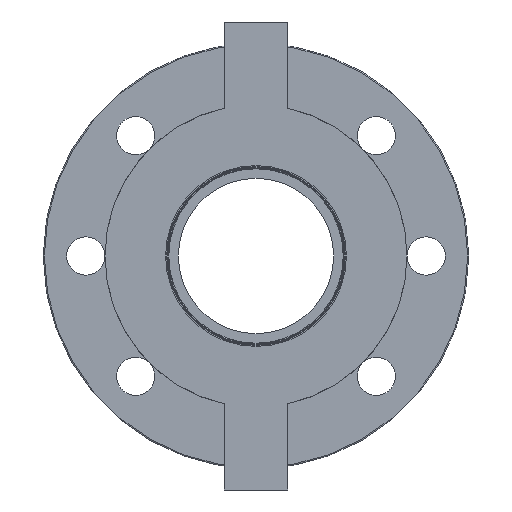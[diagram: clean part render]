
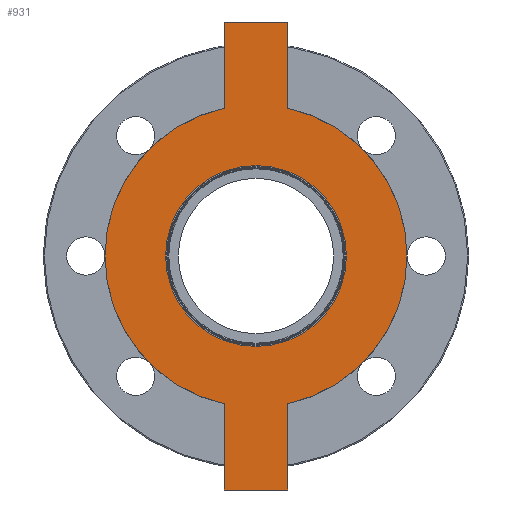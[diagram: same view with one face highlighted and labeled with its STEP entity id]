
A CAD part, front view. The second image highlights one B-rep face of the part: STEP entity #931.
In plain terms, the highlighted planar face has unit normal (0, -1, 0).
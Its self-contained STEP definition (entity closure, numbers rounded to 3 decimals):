
#762 = VERTEX_POINT ( 'NONE', #4461 ) ;
#875 = VERTEX_POINT ( 'NONE', #4579 ) ;
#888 = VERTEX_POINT ( 'NONE', #4592 ) ;
#892 = VERTEX_POINT ( 'NONE', #4596 ) ;
#893 = VERTEX_POINT ( 'NONE', #4597 ) ;
#895 = VERTEX_POINT ( 'NONE', #4599 ) ;
#931 = ADVANCED_FACE ( 'NONE', ( #4708, #4709 ), #4710, .F. ) ;
#998 = EDGE_CURVE ( 'NONE', #1052, #1133, #4975, .T. ) ;
#1003 = EDGE_CURVE ( 'NONE', #1050, #1051, #4980, .T. ) ;
#1050 = VERTEX_POINT ( 'NONE', #5381 ) ;
#1051 = VERTEX_POINT ( 'NONE', #5369 ) ;
#1052 = VERTEX_POINT ( 'NONE', #5382 ) ;
#1133 = VERTEX_POINT ( 'NONE', #5462 ) ;
#2681 = EDGE_CURVE ( 'NONE', #875, #893, #7690, .T. ) ;
#2684 = EDGE_CURVE ( 'NONE', #888, #1052, #7922, .T. ) ;
#2685 = EDGE_CURVE ( 'NONE', #895, #888, #7930, .T. ) ;
#2686 = EDGE_CURVE ( 'NONE', #893, #895, #7925, .T. ) ;
#2687 = EDGE_CURVE ( 'NONE', #892, #875, #7936, .T. ) ;
#2688 = EDGE_CURVE ( 'NONE', #762, #892, #7939, .T. ) ;
#2689 = EDGE_CURVE ( 'NONE', #1133, #762, #7924, .T. ) ;
#2690 = EDGE_CURVE ( 'NONE', #1051, #1050, #7700, .T. ) ;
#2822 = EDGE_LOOP ( 'NONE', ( #3234, #3235 ) ) ;
#2823 = EDGE_LOOP ( 'NONE', ( #3226, #3227, #3228, #3229, #3230, #3231, #3232, #3233 ) ) ;
#3226 = ORIENTED_EDGE ( 'NONE', *, *, #998, .F. ) ;
#3227 = ORIENTED_EDGE ( 'NONE', *, *, #2684, .F. ) ;
#3228 = ORIENTED_EDGE ( 'NONE', *, *, #2685, .F. ) ;
#3229 = ORIENTED_EDGE ( 'NONE', *, *, #2686, .F. ) ;
#3230 = ORIENTED_EDGE ( 'NONE', *, *, #2681, .F. ) ;
#3231 = ORIENTED_EDGE ( 'NONE', *, *, #2687, .F. ) ;
#3232 = ORIENTED_EDGE ( 'NONE', *, *, #2688, .F. ) ;
#3233 = ORIENTED_EDGE ( 'NONE', *, *, #2689, .F. ) ;
#3234 = ORIENTED_EDGE ( 'NONE', *, *, #1003, .T. ) ;
#3235 = ORIENTED_EDGE ( 'NONE', *, *, #2690, .T. ) ;
#4461 = CARTESIAN_POINT ( 'NONE',  ( 24.529, -28.872, -91.676 ) ) ;
#4579 = CARTESIAN_POINT ( 'NONE',  ( -5.471, -28.872, -51.074 ) ) ;
#4592 = CARTESIAN_POINT ( 'NONE',  ( 24.529, -28.872, 128.324 ) ) ;
#4596 = CARTESIAN_POINT ( 'NONE',  ( -5.471, -28.872, -91.676 ) ) ;
#4597 = CARTESIAN_POINT ( 'NONE',  ( -5.471, -28.872, 87.721 ) ) ;
#4599 = CARTESIAN_POINT ( 'NONE',  ( -5.471, -28.872, 128.324 ) ) ;
#4697 = CARTESIAN_POINT ( 'NONE',  ( 9.529, -28.872, 18.324 ) ) ;
#4708 = FACE_OUTER_BOUND ( 'NONE', #2823, .T. ) ;
#4709 = FACE_BOUND ( 'NONE', #2822, .T. ) ;
#4710 = PLANE ( 'NONE',  #4878 ) ;
#4712 = DIRECTION ( 'NONE',  ( 0., 1., 0. ) ) ;
#4713 = DIRECTION ( 'NONE',  ( 0., 0., 1. ) ) ;
#4878 = AXIS2_PLACEMENT_3D ( 'NONE', #4697, #4712, #4713 ) ;
#4975 = CIRCLE ( 'NONE', #4979, 71. ) ;
#4979 = AXIS2_PLACEMENT_3D ( 'NONE', #5267, #5268, #5269 ) ;
#4980 = CIRCLE ( 'NONE', #4987, 42.5 ) ;
#4987 = AXIS2_PLACEMENT_3D ( 'NONE', #5282, #5283, #5284 ) ;
#5267 = CARTESIAN_POINT ( 'NONE',  ( 9.529, -28.872, 18.324 ) ) ;
#5268 = DIRECTION ( 'NONE',  ( 0., 1., 0. ) ) ;
#5269 = DIRECTION ( 'NONE',  ( 0., 0., 1. ) ) ;
#5282 = CARTESIAN_POINT ( 'NONE',  ( 9.529, -28.872, 18.324 ) ) ;
#5283 = DIRECTION ( 'NONE',  ( 0., 1., 0. ) ) ;
#5284 = DIRECTION ( 'NONE',  ( 0., 0., 1. ) ) ;
#5369 = CARTESIAN_POINT ( 'NONE',  ( 9.529, -28.872, 60.824 ) ) ;
#5381 = CARTESIAN_POINT ( 'NONE',  ( 9.529, -28.872, -24.176 ) ) ;
#5382 = CARTESIAN_POINT ( 'NONE',  ( 24.529, -28.872, 87.721 ) ) ;
#5462 = CARTESIAN_POINT ( 'NONE',  ( 24.529, -28.872, -51.074 ) ) ;
#7690 = CIRCLE ( 'NONE', #7691, 71. ) ;
#7691 = AXIS2_PLACEMENT_3D ( 'NONE', #7919, #7920, #7921 ) ;
#7692 = VECTOR ( 'NONE', #7935, 1000. ) ;
#7693 = VECTOR ( 'NONE', #7929, 1000. ) ;
#7695 = VECTOR ( 'NONE', #7933, 1000. ) ;
#7696 = VECTOR ( 'NONE', #7944, 1000. ) ;
#7697 = VECTOR ( 'NONE', #7938, 1000. ) ;
#7698 = VECTOR ( 'NONE', #7942, 1000. ) ;
#7700 = CIRCLE ( 'NONE', #7702, 42.5 ) ;
#7702 = AXIS2_PLACEMENT_3D ( 'NONE', #7947, #7948, #7949 ) ;
#7918 = CARTESIAN_POINT ( 'NONE',  ( 24.529, -28.872, 70.621 ) ) ;
#7919 = CARTESIAN_POINT ( 'NONE',  ( 9.529, -28.872, 18.324 ) ) ;
#7920 = DIRECTION ( 'NONE',  ( 0., 1., 0. ) ) ;
#7921 = DIRECTION ( 'NONE',  ( 0., 0., 1. ) ) ;
#7922 = LINE ( 'NONE', #7918, #7693 ) ;
#7924 = LINE ( 'NONE', #7943, #7696 ) ;
#7925 = LINE ( 'NONE', #7934, #7692 ) ;
#7929 = DIRECTION ( 'NONE',  ( 0., 0., -1. ) ) ;
#7930 = LINE ( 'NONE', #7932, #7695 ) ;
#7932 = CARTESIAN_POINT ( 'NONE',  ( -5.471, -28.872, 128.324 ) ) ;
#7933 = DIRECTION ( 'NONE',  ( 1., 0., 0. ) ) ;
#7934 = CARTESIAN_POINT ( 'NONE',  ( -5.471, -28.872, 70.621 ) ) ;
#7935 = DIRECTION ( 'NONE',  ( 0., 0., 1. ) ) ;
#7936 = LINE ( 'NONE', #7937, #7697 ) ;
#7937 = CARTESIAN_POINT ( 'NONE',  ( -5.471, -28.872, -91.676 ) ) ;
#7938 = DIRECTION ( 'NONE',  ( 0., 0., 1. ) ) ;
#7939 = LINE ( 'NONE', #7941, #7698 ) ;
#7941 = CARTESIAN_POINT ( 'NONE',  ( -5.471, -28.872, -91.676 ) ) ;
#7942 = DIRECTION ( 'NONE',  ( -1., 0., 0. ) ) ;
#7943 = CARTESIAN_POINT ( 'NONE',  ( 24.529, -28.872, -91.676 ) ) ;
#7944 = DIRECTION ( 'NONE',  ( 0., 0., -1. ) ) ;
#7947 = CARTESIAN_POINT ( 'NONE',  ( 9.529, -28.872, 18.324 ) ) ;
#7948 = DIRECTION ( 'NONE',  ( 0., 1., 0. ) ) ;
#7949 = DIRECTION ( 'NONE',  ( 0., 0., 1. ) ) ;
